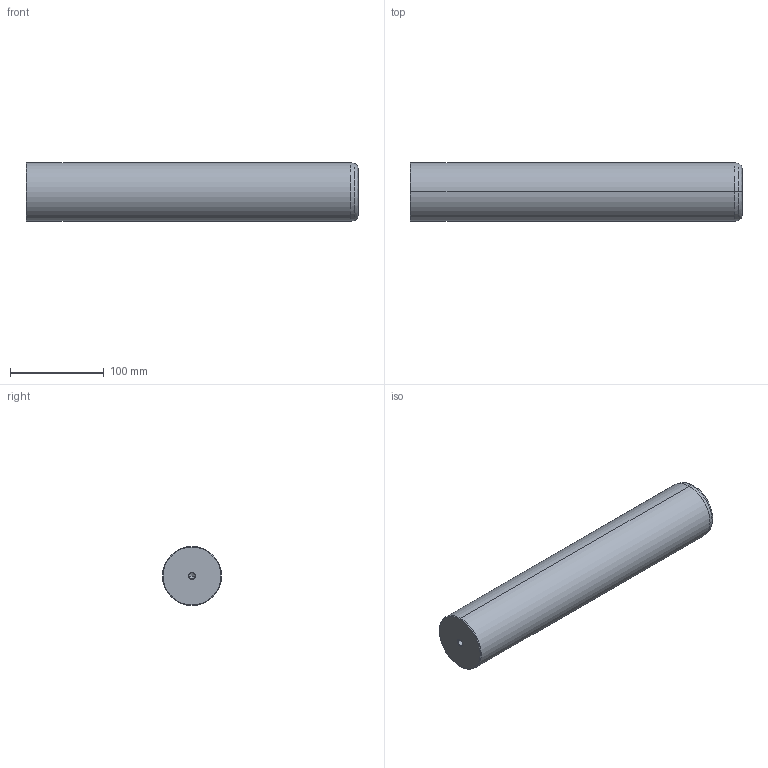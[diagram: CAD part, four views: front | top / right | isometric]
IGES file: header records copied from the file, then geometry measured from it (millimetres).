
Start section: START RECORD GO HERE.
Global section: file name: 720-63x355.igs; native system: DASSAULT SYSTEMES CATIA V5 R20 - www.3ds.com; preprocessor: CATIA Version 5 Release 20 ; author: Utente; organization: NB04-ASUS; date: 20201230.222740; units: millimetre
Bounding box: 355 x 63 x 63 mm (x, y, z)
Surface area: 76784.3 mm2 (no closed solid volume)
Topology: 0 solids, 0 shells, 22 faces, 120 edges, 116 vertices
Faces by surface type: revolution 20, plane 2
